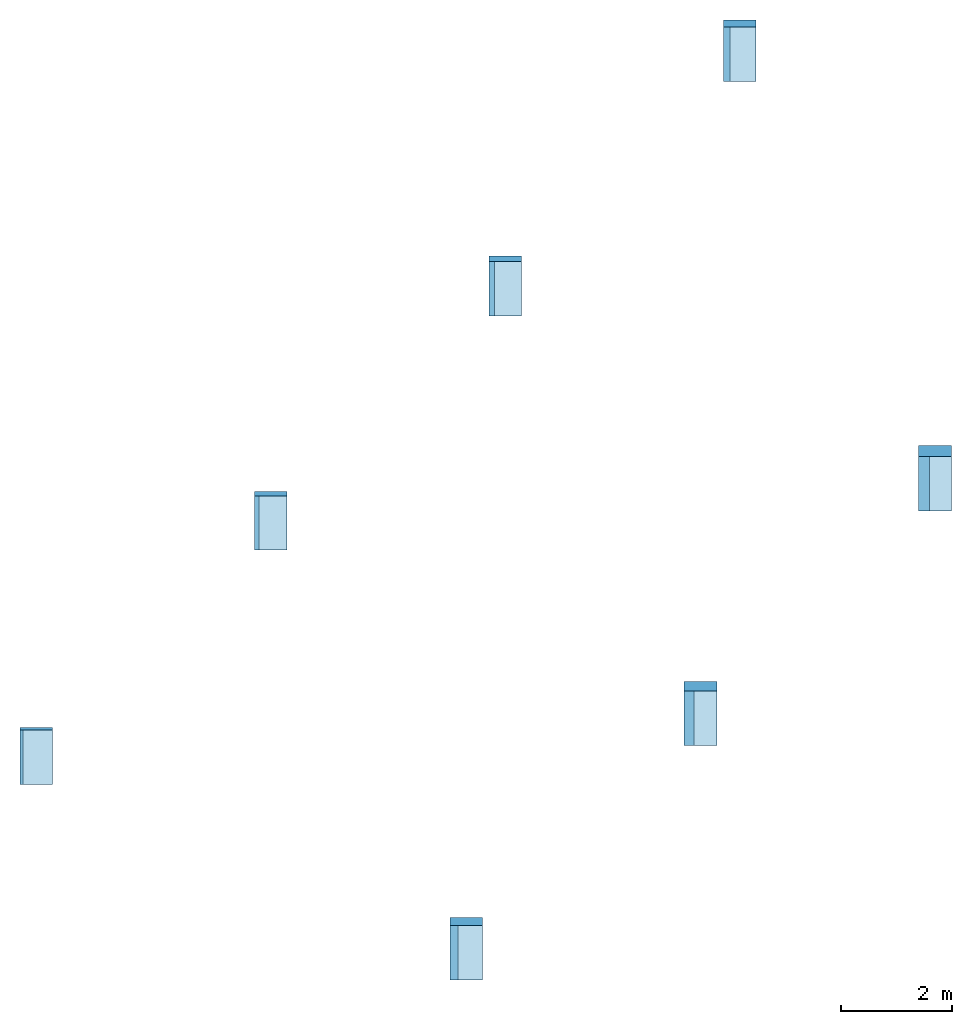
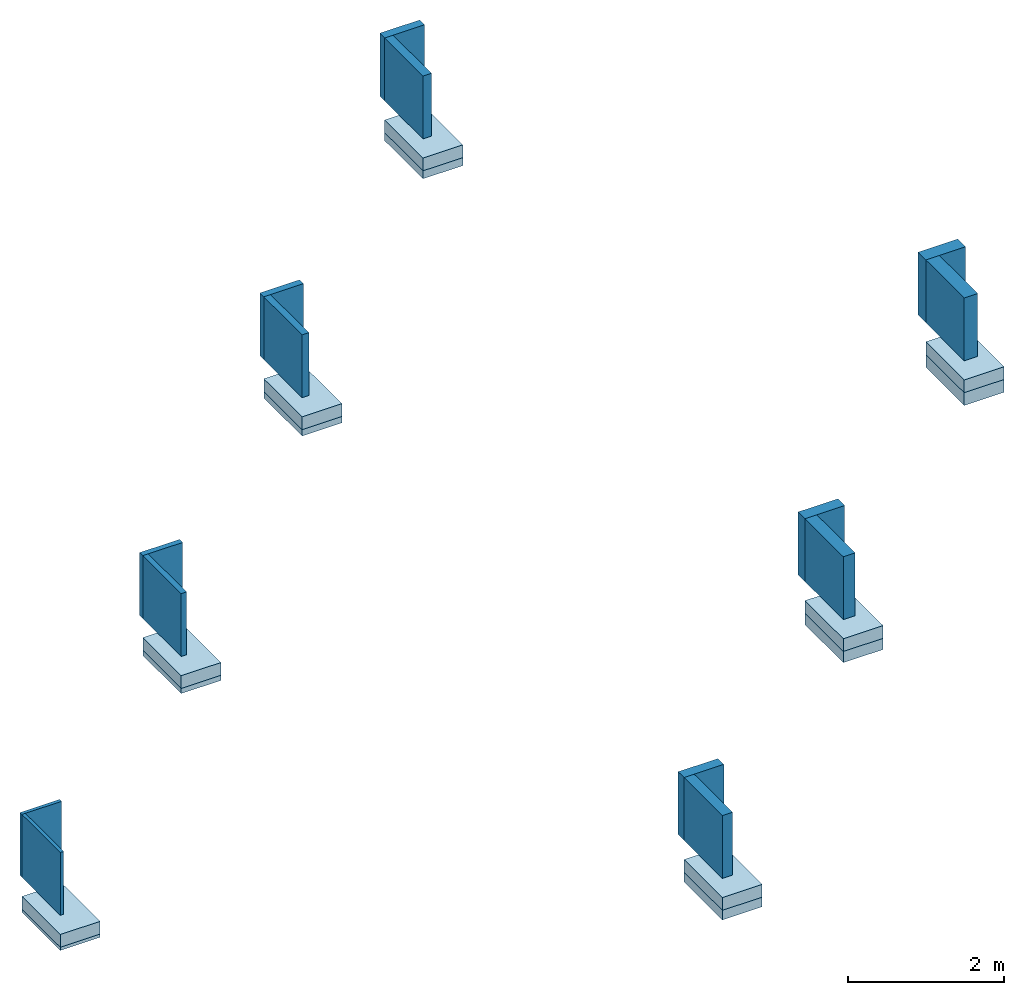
# One storey: 14 slabs, 14 walls.
"""IFC2X3 building model written with IfcOpenShell, lengths in millimetres."""

from ifc_helpers import new_model, entity, si_unit, converted_unit, derived_unit, direction, frame, frame_2d, origin, origin_2d_with_axis, place, context, subcontext, project, spatial, rectangle, extrude, material, layer, layer_set, layer_usage, type_object, element, save


model = new_model("IFC2X3")

# Units and contexts
model_context = context("Model", 3, precision=0.01, world=origin(), true_north=direction((6.12303176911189e-17, 1.0)))
context_of_model = context(None, 3, precision=0.01, world=origin(), true_north=direction((6.12303176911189e-17, 1.0)))
body_context = subcontext(model_context, "Body", "Model", "MODEL_VIEW")
ifc_project = project(units=[si_unit("LENGTHUNIT", "METRE", prefix="MILLI"), si_unit("AREAUNIT", "SQUARE_METRE"), si_unit("VOLUMEUNIT", "CUBIC_METRE"), converted_unit("PLANEANGLEUNIT", "DEGREE", entity("IfcRatioMeasure", 0.0174532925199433), si_unit("PLANEANGLEUNIT", "RADIAN"), dimensions=[0, 0, 0, 0, 0, 0, 0]), si_unit("MASSUNIT", "GRAM", prefix="KILO"), derived_unit("MASSDENSITYUNIT", [(si_unit("MASSUNIT", "GRAM", prefix="KILO"), 1), (si_unit("LENGTHUNIT", "METRE"), -3)]), derived_unit("MOMENTOFINERTIAUNIT", [(si_unit("LENGTHUNIT", "METRE"), 4)]), si_unit("TIMEUNIT", "SECOND"), si_unit("FREQUENCYUNIT", "HERTZ"), si_unit("THERMODYNAMICTEMPERATUREUNIT", "DEGREE_CELSIUS"), derived_unit("THERMALTRANSMITTANCEUNIT", [(si_unit("MASSUNIT", "GRAM", prefix="KILO"), 1), (si_unit("THERMODYNAMICTEMPERATUREUNIT", "KELVIN"), -1), (si_unit("TIMEUNIT", "SECOND"), -3)]), derived_unit("VOLUMETRICFLOWRATEUNIT", [(si_unit("LENGTHUNIT", "METRE"), 3), (si_unit("TIMEUNIT", "SECOND"), -1)]), si_unit("ELECTRICCURRENTUNIT", "AMPERE"), si_unit("ELECTRICVOLTAGEUNIT", "VOLT"), si_unit("POWERUNIT", "WATT"), si_unit("FORCEUNIT", "NEWTON", prefix="KILO"), si_unit("ILLUMINANCEUNIT", "LUX"), si_unit("LUMINOUSFLUXUNIT", "LUMEN"), si_unit("LUMINOUSINTENSITYUNIT", "CANDELA"), derived_unit("USERDEFINED", [(si_unit("MASSUNIT", "GRAM", prefix="KILO"), -1), (si_unit("LENGTHUNIT", "METRE"), -2), (si_unit("TIMEUNIT", "SECOND"), 3), (si_unit("LUMINOUSFLUXUNIT", "LUMEN"), 1)]), derived_unit("LINEARVELOCITYUNIT", [(si_unit("LENGTHUNIT", "METRE"), 1), (si_unit("TIMEUNIT", "SECOND"), -1)]), si_unit("PRESSUREUNIT", "PASCAL"), derived_unit("USERDEFINED", [(si_unit("LENGTHUNIT", "METRE"), -2), (si_unit("MASSUNIT", "GRAM", prefix="KILO"), 1), (si_unit("TIMEUNIT", "SECOND"), -2)]), derived_unit("LINEARFORCEUNIT", [(si_unit("MASSUNIT", "GRAM", prefix="KILO"), 1), (si_unit("LENGTHUNIT", "METRE"), 1), (si_unit("TIMEUNIT", "SECOND"), -2), (si_unit("LENGTHUNIT", "METRE"), -1)]), derived_unit("PLANARFORCEUNIT", [(si_unit("MASSUNIT", "GRAM", prefix="KILO"), 1), (si_unit("LENGTHUNIT", "METRE"), 1), (si_unit("TIMEUNIT", "SECOND"), -2), (si_unit("LENGTHUNIT", "METRE"), -2)])], contexts=[model_context, context_of_model])

# Site, building, storey
site_placement = place(None, origin())
site = spatial("IfcSite", under=ifc_project, at=site_placement, Name="Default", CompositionType="ELEMENT")
building_placement = place(site_placement, origin())
building = spatial("IfcBuilding", under=site, at=building_placement, CompositionType="ELEMENT")
storey_placement = place(building_placement, origin())
storey = spatial("IfcBuildingStorey", under=building, at=storey_placement, Name="00 begane grond", CompositionType="ELEMENT", Elevation=-2.77069864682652e-11)

# Slabs
ifc_material_1 = material(Name="Heraklith® I Heratekta - EPS60-SE")
ifc_layer_1 = layer(ifc_material_1, 70.0)
ifc_material_2 = material(Name="Heraklith® | Heratekta - Houtwollaag - 985x590mm")
ifc_layer_2 = layer(ifc_material_2, 10.0)
ifc_layer_set_1 = layer_set([ifc_layer_1, ifc_layer_2], Name="Floor:NLRS_23_FL_Heraklith Heratekta+ 80x985x590mm")
ifc_layer_usage_1 = layer_usage(ifc_layer_set_1, "AXIS3", "POSITIVE", 0.0)
slab_type_1 = type_object("IfcSlabType", Name="Floor:NLRS_23_FL_Heraklith Heratekta+ 80x985x590mm", PredefinedType="FLOOR", material=ifc_layer_set_1)
slab_1_placement = place(storey_placement, origin())
element("IfcSlab", 1, at=slab_1_placement, inside=storey, type_object=slab_type_1, material=ifc_layer_usage_1, Name="Floor:NLRS_23_FL_Heraklith Heratekta+ 80x985x590mm", ObjectType="Floor:NLRS_23_FL_Heraklith Heratekta+ 80x985x590mm", PredefinedType="FLOOR", context=body_context, shape_type="SweptSolid", body=[
    extrude(rectangle(XDim=985.0, YDim=590.0, at=frame_2d((5.6843418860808e-13, 0.0), x_axis=(1.0, 0.0))), frame((4537.64068711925, 4735.14068711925, -500.0), z_axis=(0.0, 0.0, -1.0), x_axis=(0.0, 1.0, 0.0)), (0.0, 0.0, 1.0), 80.0),
])
ifc_layer_3 = layer(ifc_material_1, 90.0)
ifc_layer_4 = layer(ifc_material_2, 10.0)
ifc_layer_set_2 = layer_set([ifc_layer_3, ifc_layer_4], Name="Floor:NLRS_23_FL_Heraklith Heratekta+ 100x985x590mm")
ifc_layer_usage_2 = layer_usage(ifc_layer_set_2, "AXIS3", "POSITIVE", 0.0)
slab_type_2 = type_object("IfcSlabType", Name="Floor:NLRS_23_FL_Heraklith Heratekta+ 100x985x590mm", PredefinedType="FLOOR", material=ifc_layer_set_2)
slab_2_placement = place(storey_placement, origin())
element("IfcSlab", 2, at=slab_2_placement, inside=storey, type_object=slab_type_2, material=ifc_layer_usage_2, Name="Floor:NLRS_23_FL_Heraklith Heratekta+ 100x985x590mm", ObjectType="Floor:NLRS_23_FL_Heraklith Heratekta+ 100x985x590mm", PredefinedType="FLOOR", context=body_context, shape_type="SweptSolid", body=[
    extrude(rectangle(XDim=985.0, YDim=590.0, at=frame_2d((-5.6843418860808e-13, 0.0), x_axis=(1.0, 0.0))), frame((8780.28137423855, 8977.78137423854, -500.0), z_axis=(0.0, 0.0, -1.0), x_axis=(0.0, 1.0, 0.0)), (0.0, 0.0, 1.0), 100.0),
])
ifc_layer_5 = layer(ifc_material_1, 115.0)
ifc_layer_6 = layer(ifc_material_2, 10.0)
ifc_layer_set_3 = layer_set([ifc_layer_5, ifc_layer_6], Name="Floor:NLRS_23_FL_Heraklith Heratekta+ 125x985x590mm")
ifc_layer_usage_3 = layer_usage(ifc_layer_set_3, "AXIS3", "POSITIVE", 0.0)
slab_type_3 = type_object("IfcSlabType", Name="Floor:NLRS_23_FL_Heraklith Heratekta+ 125x985x590mm", PredefinedType="FLOOR", material=ifc_layer_set_3)
slab_3_placement = place(storey_placement, origin())
element("IfcSlab", 3, at=slab_3_placement, inside=storey, type_object=slab_type_3, material=ifc_layer_usage_3, Name="Floor:NLRS_23_FL_Heraklith Heratekta+ 125x985x590mm", ObjectType="Floor:NLRS_23_FL_Heraklith Heratekta+ 125x985x590mm", PredefinedType="FLOOR", context=body_context, shape_type="SweptSolid", body=[
    extrude(rectangle(XDim=984.999999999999, YDim=590.0, at=frame_2d((-1.10844666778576e-12, 0.0), x_axis=(1.0, 0.0))), frame((13022.9220613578, 13220.4220613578, -500.0), z_axis=(0.0, 0.0, -1.0), x_axis=(0.0, 1.0, 0.0)), (0.0, 0.0, 1.0), 125.0),
])
ifc_layer_7 = layer(ifc_material_1, 140.0)
ifc_layer_8 = layer(ifc_material_2, 10.0)
ifc_layer_set_4 = layer_set([ifc_layer_7, ifc_layer_8], Name="Floor:NLRS_23_FL_Heraklith Heratekta+ 150x985x590mm")
ifc_layer_usage_4 = layer_usage(ifc_layer_set_4, "AXIS3", "POSITIVE", 0.0)
slab_type_4 = type_object("IfcSlabType", Name="Floor:NLRS_23_FL_Heraklith Heratekta+ 150x985x590mm", PredefinedType="FLOOR", material=ifc_layer_set_4)
slab_4_placement = place(storey_placement, origin())
element("IfcSlab", 4, at=slab_4_placement, inside=storey, type_object=slab_type_4, material=ifc_layer_usage_4, Name="Floor:NLRS_23_FL_Heraklith Heratekta+ 150x985x590mm", ObjectType="Floor:NLRS_23_FL_Heraklith Heratekta+ 150x985x590mm", PredefinedType="FLOOR", context=body_context, shape_type="SweptSolid", body=[
    extrude(rectangle(XDim=985.0, YDim=590.0, at=origin_2d_with_axis()), frame((8073.17459305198, -3043.03390593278, -500.0), z_axis=(0.0, 0.0, -1.0), x_axis=(0.0, 1.0, 0.0)), (0.0, 0.0, 1.0), 150.0),
])
ifc_layer_9 = layer(ifc_material_1, 165.0)
ifc_layer_10 = layer(ifc_material_2, 10.0)
ifc_layer_set_5 = layer_set([ifc_layer_9, ifc_layer_10], Name="Floor:NLRS_23_FL_Heraklith Heratekta+ 175x985x590mm")
ifc_layer_usage_5 = layer_usage(ifc_layer_set_5, "AXIS3", "POSITIVE", 0.0)
slab_type_5 = type_object("IfcSlabType", Name="Floor:NLRS_23_FL_Heraklith Heratekta+ 175x985x590mm", PredefinedType="FLOOR", material=ifc_layer_set_5)
slab_5_placement = place(storey_placement, origin())
element("IfcSlab", 5, at=slab_5_placement, inside=storey, type_object=slab_type_5, material=ifc_layer_usage_5, Name="Floor:NLRS_23_FL_Heraklith Heratekta+ 175x985x590mm", ObjectType="Floor:NLRS_23_FL_Heraklith Heratekta+ 175x985x590mm", PredefinedType="FLOOR", context=body_context, shape_type="SweptSolid", body=[
    extrude(rectangle(XDim=985.0, YDim=590.0, at=frame_2d((1.4210854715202e-13, 0.0), x_axis=(1.0, 0.0))), frame((12315.8152801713, 1199.6067811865, -500.0), z_axis=(0.0, 0.0, -1.0), x_axis=(0.0, 1.0, 0.0)), (0.0, 0.0, 1.0), 175.0),
])
ifc_layer_11 = layer(ifc_material_1, 190.0)
ifc_layer_12 = layer(ifc_material_2, 10.0)
ifc_layer_set_6 = layer_set([ifc_layer_11, ifc_layer_12], Name="Floor:NLRS_23_FL_Heraklith Heratekta+ 200x985x590mm")
ifc_layer_usage_6 = layer_usage(ifc_layer_set_6, "AXIS3", "POSITIVE", 0.0)
slab_type_6 = type_object("IfcSlabType", Name="Floor:NLRS_23_FL_Heraklith Heratekta+ 200x985x590mm", PredefinedType="FLOOR", material=ifc_layer_set_6)
slab_6_placement = place(storey_placement, origin())
element("IfcSlab", 6, at=slab_6_placement, inside=storey, type_object=slab_type_6, material=ifc_layer_usage_6, Name="Floor:NLRS_23_FL_Heraklith Heratekta+ 200x985x590mm", ObjectType="Floor:NLRS_23_FL_Heraklith Heratekta+ 200x985x590mm", PredefinedType="FLOOR", context=body_context, shape_type="SweptSolid", body=[
    extrude(rectangle(XDim=985.0, YDim=590.0, at=frame_2d((-5.6843418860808e-13, 0.0), x_axis=(1.0, 0.0))), frame((16558.4559672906, 5442.24746830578, -500.0), z_axis=(0.0, 0.0, -1.0), x_axis=(0.0, 1.0, 0.0)), (0.0, 0.0, 1.0), 200.0),
])
ifc_material_3 = material(Name="Concrete, Precast Panels")
ifc_layer_13 = layer(ifc_material_3, 200.0)
ifc_layer_set_7 = layer_set([ifc_layer_13], Name="Floor:Generic 200mm")
ifc_layer_usage_7 = layer_usage(ifc_layer_set_7, "AXIS3", "POSITIVE", 0.0)
slab_type_7 = type_object("IfcSlabType", Name="Floor:Generic 200mm", PredefinedType="FLOOR", material=ifc_layer_set_7)
slab_7_placement = place(storey_placement, origin())
element("IfcSlab", 7, at=slab_7_placement, inside=storey, type_object=slab_type_7, material=ifc_layer_usage_7, Name="Floor:Generic 200mm", ObjectType="Floor:Generic 200mm", PredefinedType="FLOOR", context=body_context, shape_type="SweptSolid", body=[
    extrude(rectangle(XDim=984.999999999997, YDim=589.999999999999, at=frame_2d((-5.6843418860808e-14, 1.13686837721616e-12), x_axis=(1.0, 0.0))), frame((295.0, 492.499999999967, -300.0), z_axis=(0.0, 0.0, -1.0), x_axis=(0.0, 1.0, 0.0)), (0.0, 0.0, 1.0), 200.0),
])
ifc_layer_usage_8 = layer_usage(ifc_layer_set_7, "AXIS3", "POSITIVE", 0.0)
slab_type_8 = type_object("IfcSlabType", Name="Floor:Generic 200mm", PredefinedType="FLOOR", material=ifc_layer_set_7)
slab_8_placement = place(storey_placement, origin())
element("IfcSlab", 8, at=slab_8_placement, inside=storey, type_object=slab_type_8, material=ifc_layer_usage_8, Name="Floor:Generic 200mm", ObjectType="Floor:Generic 200mm", PredefinedType="FLOOR", context=body_context, shape_type="SweptSolid", body=[
    extrude(rectangle(XDim=985.000000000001, YDim=589.999999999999, at=origin_2d_with_axis()), frame((4537.64068711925, 4735.14068711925, -300.0), z_axis=(0.0, 0.0, -1.0), x_axis=(0.0, 1.0, 0.0)), (0.0, 0.0, 1.0), 200.0),
])
ifc_layer_usage_9 = layer_usage(ifc_layer_set_7, "AXIS3", "POSITIVE", 0.0)
slab_type_9 = type_object("IfcSlabType", Name="Floor:Generic 200mm", PredefinedType="FLOOR", material=ifc_layer_set_7)
slab_9_placement = place(storey_placement, origin())
element("IfcSlab", 9, at=slab_9_placement, inside=storey, type_object=slab_type_9, material=ifc_layer_usage_9, Name="Floor:Generic 200mm", ObjectType="Floor:Generic 200mm", PredefinedType="FLOOR", context=body_context, shape_type="SweptSolid", body=[
    extrude(rectangle(XDim=984.999999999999, YDim=589.999999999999, at=frame_2d((0.0, 5.40012479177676e-13), x_axis=(1.0, 0.0))), frame((8780.28137423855, 8977.78137423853, -300.0), z_axis=(0.0, 0.0, -1.0), x_axis=(0.0, 1.0, 0.0)), (0.0, 0.0, 1.0), 200.0),
])
ifc_layer_usage_10 = layer_usage(ifc_layer_set_7, "AXIS3", "POSITIVE", 0.0)
slab_type_10 = type_object("IfcSlabType", Name="Floor:Generic 200mm", PredefinedType="FLOOR", material=ifc_layer_set_7)
slab_10_placement = place(storey_placement, origin())
element("IfcSlab", 10, at=slab_10_placement, inside=storey, type_object=slab_type_10, material=ifc_layer_usage_10, Name="Floor:Generic 200mm", ObjectType="Floor:Generic 200mm", PredefinedType="FLOOR", context=body_context, shape_type="SweptSolid", body=[
    extrude(rectangle(XDim=984.999999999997, YDim=590.0, at=frame_2d((2.18847162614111e-12, 0.0), x_axis=(1.0, 0.0))), frame((13022.9220613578, 13220.4220613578, -300.0), z_axis=(0.0, 0.0, -1.0), x_axis=(0.0, 1.0, 0.0)), (0.0, 0.0, 1.0), 200.0),
])
ifc_layer_usage_11 = layer_usage(ifc_layer_set_7, "AXIS3", "POSITIVE", 0.0)
slab_type_11 = type_object("IfcSlabType", Name="Floor:Generic 200mm", PredefinedType="FLOOR", material=ifc_layer_set_7)
slab_11_placement = place(storey_placement, origin())
element("IfcSlab", 11, at=slab_11_placement, inside=storey, type_object=slab_type_11, material=ifc_layer_usage_11, Name="Floor:Generic 200mm", ObjectType="Floor:Generic 200mm", PredefinedType="FLOOR", context=body_context, shape_type="SweptSolid", body=[
    extrude(rectangle(XDim=984.999999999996, YDim=590.0, at=frame_2d((-5.40012479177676e-13, 0.0), x_axis=(1.0, 0.0))), frame((16558.4559672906, 5442.24746830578, -300.0), z_axis=(0.0, 0.0, -1.0), x_axis=(0.0, 1.0, 0.0)), (0.0, 0.0, 1.0), 200.0),
])
ifc_layer_usage_12 = layer_usage(ifc_layer_set_7, "AXIS3", "POSITIVE", 0.0)
slab_type_12 = type_object("IfcSlabType", Name="Floor:Generic 200mm", PredefinedType="FLOOR", material=ifc_layer_set_7)
slab_12_placement = place(storey_placement, origin())
element("IfcSlab", 12, at=slab_12_placement, inside=storey, type_object=slab_type_12, material=ifc_layer_usage_12, Name="Floor:Generic 200mm", ObjectType="Floor:Generic 200mm", PredefinedType="FLOOR", context=body_context, shape_type="SweptSolid", body=[
    extrude(rectangle(XDim=985.000000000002, YDim=590.0, at=frame_2d((-2.8421709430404e-13, 0.0), x_axis=(1.0, 0.0))), frame((12315.8152801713, 1199.6067811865, -300.0), z_axis=(0.0, 0.0, -1.0), x_axis=(0.0, 1.0, 0.0)), (0.0, 0.0, 1.0), 200.0),
])
ifc_layer_usage_13 = layer_usage(ifc_layer_set_7, "AXIS3", "POSITIVE", 0.0)
slab_type_13 = type_object("IfcSlabType", Name="Floor:Generic 200mm", PredefinedType="FLOOR", material=ifc_layer_set_7)
slab_13_placement = place(storey_placement, origin())
element("IfcSlab", 13, at=slab_13_placement, inside=storey, type_object=slab_type_13, material=ifc_layer_usage_13, Name="Floor:Generic 200mm", ObjectType="Floor:Generic 200mm", PredefinedType="FLOOR", context=body_context, shape_type="SweptSolid", body=[
    extrude(rectangle(XDim=985.000000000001, YDim=590.000000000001, at=frame_2d((0.0, 5.40012479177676e-13), x_axis=(1.0, 0.0))), frame((8073.17459305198, -3043.03390593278, -300.0), z_axis=(0.0, 0.0, -1.0), x_axis=(0.0, 1.0, 0.0)), (0.0, 0.0, 1.0), 200.0),
])
ifc_layer_14 = layer(ifc_material_1, 40.0)
ifc_layer_15 = layer(ifc_material_2, 10.0)
ifc_layer_set_8 = layer_set([ifc_layer_14, ifc_layer_15], Name="Floor:NLRS_23_FL_Heraklith Heratekta+ 50x985x590mm")
ifc_layer_usage_14 = layer_usage(ifc_layer_set_8, "AXIS3", "POSITIVE", 0.0)
slab_type_14 = type_object("IfcSlabType", Name="Floor:NLRS_23_FL_Heraklith Heratekta+ 50x985x590mm", PredefinedType="FLOOR", material=ifc_layer_set_8)
slab_14_placement = place(storey_placement, origin())
element("IfcSlab", 14, at=slab_14_placement, inside=storey, type_object=slab_type_14, material=ifc_layer_usage_14, Name="Floor:NLRS_23_FL_Heraklith Heratekta+ 50x985x590mm", ObjectType="Floor:NLRS_23_FL_Heraklith Heratekta+ 50x985x590mm", PredefinedType="FLOOR", context=body_context, shape_type="SweptSolid", body=[
    extrude(rectangle(XDim=985.0, YDim=590.0, at=origin_2d_with_axis()), frame((295.0, 492.519553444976, -500.0), z_axis=(0.0, 0.0, -1.0), x_axis=(0.0, 1.0, 0.0)), (0.0, 0.0, 1.0), 50.0),
])

# Walls
ifc_layer_16 = layer(ifc_material_1, 40.0)
ifc_layer_17 = layer(ifc_material_2, 10.0)
ifc_layer_set_9 = layer_set([ifc_layer_16, ifc_layer_17], Name="Basic Wall:NLRS_42_WA_Heraklith Heratekta+ 50x985x590mm")
ifc_layer_usage_15 = layer_usage(ifc_layer_set_9, "AXIS2", "POSITIVE", -25.0)
wall_type_1 = type_object("IfcWallType", Name="Basic Wall:NLRS_42_WA_Heraklith Heratekta+ 50x985x590mm", PredefinedType="STANDARD", material=ifc_layer_set_9)
wall_1_placement = place(storey_placement, frame((25.0, 0.0, 0.0), z_axis=(0.0, 0.0, 1.0), x_axis=(0.0, 1.0, 0.0)))
element("IfcWallStandardCase", 15, at=wall_1_placement, inside=storey, type_object=wall_type_1, material=ifc_layer_usage_15, Name="Basic Wall:NLRS_42_WA_Heraklith Heratekta+ 50x985x590mm", ObjectType="Basic Wall:NLRS_42_WA_Heraklith Heratekta+ 50x985x590mm", context=body_context, shape_type="SweptSolid", body=[
    extrude(rectangle(XDim=985.0, YDim=50.0, at=frame_2d((492.5, 1.77635683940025e-15), x_axis=(-1.0, 0.0))), origin(), (0.0, 0.0, 1.0), 985.000000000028),
])
ifc_layer_18 = layer(ifc_material_1, 40.0)
ifc_layer_19 = layer(ifc_material_2, 10.0)
ifc_layer_set_10 = layer_set([ifc_layer_18, ifc_layer_19], Name="Basic Wall:NLRS_41_WA_Heraklith Heratekta+ 50x985x590mm")
ifc_layer_usage_16 = layer_usage(ifc_layer_set_10, "AXIS2", "NEGATIVE", 25.0)
wall_type_2 = type_object("IfcWallType", Name="Basic Wall:NLRS_41_WA_Heraklith Heratekta+ 50x985x590mm", PredefinedType="STANDARD", material=ifc_layer_set_10)
wall_2_placement = place(storey_placement, frame((590.0, 1010.0, 0.0), z_axis=(0.0, 0.0, 1.0), x_axis=(-1.0, 0.0, 0.0)))
element("IfcWallStandardCase", 16, at=wall_2_placement, inside=storey, type_object=wall_type_2, material=ifc_layer_usage_16, Name="Basic Wall:NLRS_41_WA_Heraklith Heratekta+ 50x985x590mm", ObjectType="Basic Wall:NLRS_41_WA_Heraklith Heratekta+ 50x985x590mm", context=body_context, shape_type="SweptSolid", body=[
    extrude(rectangle(XDim=590.0, YDim=50.0, at=frame_2d((295.0, -1.59872115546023e-14), x_axis=(-1.0, 0.0))), origin(), (0.0, 0.0, 1.0), 985.000000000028),
])
ifc_layer_20 = layer(ifc_material_1, 70.0)
ifc_layer_21 = layer(ifc_material_2, 10.0)
ifc_layer_set_11 = layer_set([ifc_layer_20, ifc_layer_21], Name="Basic Wall:NLRS_42_WA_Heraklith Heratekta+ 80x985x590mm")
ifc_layer_usage_17 = layer_usage(ifc_layer_set_11, "AXIS2", "POSITIVE", -40.0)
wall_type_3 = type_object("IfcWallType", Name="Basic Wall:NLRS_42_WA_Heraklith Heratekta+ 80x985x590mm", PredefinedType="STANDARD", material=ifc_layer_set_11)
wall_3_placement = place(storey_placement, frame((4282.64068711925, 4242.64068711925, 0.0), z_axis=(0.0, 0.0, 1.0), x_axis=(0.0, 1.0, 0.0)))
element("IfcWallStandardCase", 17, at=wall_3_placement, inside=storey, type_object=wall_type_3, material=ifc_layer_usage_17, Name="Basic Wall:NLRS_42_WA_Heraklith Heratekta+ 80x985x590mm", ObjectType="Basic Wall:NLRS_42_WA_Heraklith Heratekta+ 80x985x590mm", context=body_context, shape_type="SweptSolid", body=[
    extrude(rectangle(XDim=984.999999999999, YDim=80.0000000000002, at=frame_2d((492.5, -2.1316282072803e-14), x_axis=(-1.0, 0.0))), origin(), (0.0, 0.0, 1.0), 985.000000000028),
])
ifc_layer_22 = layer(ifc_material_1, 70.0)
ifc_layer_23 = layer(ifc_material_2, 10.0)
ifc_layer_set_12 = layer_set([ifc_layer_22, ifc_layer_23], Name="Basic Wall:NLRS_41_WA_Heraklith Heratekta+ 80x985x590mm")
ifc_layer_usage_18 = layer_usage(ifc_layer_set_12, "AXIS2", "NEGATIVE", 40.0)
wall_type_4 = type_object("IfcWallType", Name="Basic Wall:NLRS_41_WA_Heraklith Heratekta+ 80x985x590mm", PredefinedType="STANDARD", material=ifc_layer_set_12)
wall_4_placement = place(storey_placement, frame((4832.64068711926, 5267.64068711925, 0.0), z_axis=(0.0, 0.0, 1.0), x_axis=(-1.0, 0.0, 0.0)))
element("IfcWallStandardCase", 18, at=wall_4_placement, inside=storey, type_object=wall_type_4, material=ifc_layer_usage_18, Name="Basic Wall:NLRS_41_WA_Heraklith Heratekta+ 80x985x590mm", ObjectType="Basic Wall:NLRS_41_WA_Heraklith Heratekta+ 80x985x590mm", context=body_context, shape_type="SweptSolid", body=[
    extrude(rectangle(XDim=590.000000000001, YDim=79.9999999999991, at=frame_2d((295.0, 4.58300064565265e-13), x_axis=(-1.0, 0.0))), origin(), (0.0, 0.0, 1.0), 985.000000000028),
])
ifc_layer_24 = layer(ifc_material_1, 90.0)
ifc_layer_25 = layer(ifc_material_2, 10.0)
ifc_layer_set_13 = layer_set([ifc_layer_24, ifc_layer_25], Name="Basic Wall:NLRS_42_WA_Heraklith Heratekta+ 100x985x590mm")
ifc_layer_usage_19 = layer_usage(ifc_layer_set_13, "AXIS2", "POSITIVE", -50.0)
wall_type_5 = type_object("IfcWallType", Name="Basic Wall:NLRS_42_WA_Heraklith Heratekta+ 100x985x590mm", PredefinedType="STANDARD", material=ifc_layer_set_13)
wall_5_placement = place(storey_placement, frame((8535.28137423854, 8485.28137423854, 0.0), z_axis=(0.0, 0.0, 1.0), x_axis=(0.0, 1.0, 0.0)))
element("IfcWallStandardCase", 19, at=wall_5_placement, inside=storey, type_object=wall_type_5, material=ifc_layer_usage_19, Name="Basic Wall:NLRS_42_WA_Heraklith Heratekta+ 100x985x590mm", ObjectType="Basic Wall:NLRS_42_WA_Heraklith Heratekta+ 100x985x590mm", context=body_context, shape_type="SweptSolid", body=[
    extrude(rectangle(XDim=984.999999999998, YDim=99.9999999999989, at=frame_2d((492.499999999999, 2.52242671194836e-13), x_axis=(-1.0, 0.0))), origin(), (0.0, 0.0, 1.0), 985.000000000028),
])
ifc_layer_26 = layer(ifc_material_1, 90.0)
ifc_layer_27 = layer(ifc_material_2, 10.0)
ifc_layer_set_14 = layer_set([ifc_layer_26, ifc_layer_27], Name="Basic Wall:NLRS_41_WA_Heraklith Heratekta+ 100x985x590mm")
ifc_layer_usage_20 = layer_usage(ifc_layer_set_14, "AXIS2", "NEGATIVE", 50.0)
wall_type_6 = type_object("IfcWallType", Name="Basic Wall:NLRS_41_WA_Heraklith Heratekta+ 100x985x590mm", PredefinedType="STANDARD", material=ifc_layer_set_14)
wall_6_placement = place(storey_placement, frame((9075.28137423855, 9520.28137423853, 0.0), z_axis=(0.0, 0.0, 1.0), x_axis=(-1.0, 0.0, 0.0)))
element("IfcWallStandardCase", 20, at=wall_6_placement, inside=storey, type_object=wall_type_6, material=ifc_layer_usage_20, Name="Basic Wall:NLRS_41_WA_Heraklith Heratekta+ 100x985x590mm", ObjectType="Basic Wall:NLRS_41_WA_Heraklith Heratekta+ 100x985x590mm", context=body_context, shape_type="SweptSolid", body=[
    extrude(rectangle(XDim=590.0, YDim=99.9999999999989, at=frame_2d((295.0, 4.58300064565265e-13), x_axis=(-1.0, 0.0))), origin(), (0.0, 0.0, 1.0), 985.000000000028),
])
ifc_layer_28 = layer(ifc_material_1, 115.0)
ifc_layer_29 = layer(ifc_material_2, 10.0)
ifc_layer_set_15 = layer_set([ifc_layer_28, ifc_layer_29], Name="Basic Wall:NLRS_42_WA_Heraklith Heratekta+ 125x985x590mm")
ifc_layer_usage_21 = layer_usage(ifc_layer_set_15, "AXIS2", "POSITIVE", -62.5)
wall_type_7 = type_object("IfcWallType", Name="Basic Wall:NLRS_42_WA_Heraklith Heratekta+ 125x985x590mm", PredefinedType="STANDARD", material=ifc_layer_set_15)
wall_7_placement = place(storey_placement, frame((12790.4220613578, 12727.9220613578, 0.0), z_axis=(0.0, 0.0, 1.0), x_axis=(0.0, 1.0, 0.0)))
element("IfcWallStandardCase", 21, at=wall_7_placement, inside=storey, type_object=wall_type_7, material=ifc_layer_usage_21, Name="Basic Wall:NLRS_42_WA_Heraklith Heratekta+ 125x985x590mm", ObjectType="Basic Wall:NLRS_42_WA_Heraklith Heratekta+ 125x985x590mm", context=body_context, shape_type="SweptSolid", body=[
    extrude(rectangle(XDim=984.999999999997, YDim=125.000000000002, at=frame_2d((492.499999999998, -2.91322521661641e-13), x_axis=(-1.0, 0.0))), origin(), (0.0, 0.0, 1.0), 985.000000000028),
])
ifc_layer_30 = layer(ifc_material_1, 115.0)
ifc_layer_31 = layer(ifc_material_2, 10.0)
ifc_layer_set_16 = layer_set([ifc_layer_30, ifc_layer_31], Name="Basic Wall:NLRS_41_WA_Heraklith Heratekta+ 125x985x590mm")
ifc_layer_usage_22 = layer_usage(ifc_layer_set_16, "AXIS2", "NEGATIVE", 62.5)
wall_type_8 = type_object("IfcWallType", Name="Basic Wall:NLRS_41_WA_Heraklith Heratekta+ 125x985x590mm", PredefinedType="STANDARD", material=ifc_layer_set_16)
wall_8_placement = place(storey_placement, frame((13317.9220613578, 13775.4220613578, 0.0), z_axis=(0.0, 0.0, 1.0), x_axis=(-1.0, 0.0, 0.0)))
element("IfcWallStandardCase", 22, at=wall_8_placement, inside=storey, type_object=wall_type_8, material=ifc_layer_usage_22, Name="Basic Wall:NLRS_41_WA_Heraklith Heratekta+ 125x985x590mm", ObjectType="Basic Wall:NLRS_41_WA_Heraklith Heratekta+ 125x985x590mm", context=body_context, shape_type="SweptSolid", body=[
    extrude(rectangle(XDim=590.000000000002, YDim=125.000000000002, at=frame_2d((295.000000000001, -8.5265128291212e-14), x_axis=(-1.0, 0.0))), origin(), (0.0, 0.0, 1.0), 985.000000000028),
])
ifc_layer_32 = layer(ifc_material_1, 140.0)
ifc_layer_33 = layer(ifc_material_2, 10.0)
ifc_layer_set_17 = layer_set([ifc_layer_32, ifc_layer_33], Name="Basic Wall:NLRS_42_WA_Heraklith Heratekta+ 150x985x590mm")
ifc_layer_usage_23 = layer_usage(ifc_layer_set_17, "AXIS2", "POSITIVE", -75.0)
wall_type_9 = type_object("IfcWallType", Name="Basic Wall:NLRS_42_WA_Heraklith Heratekta+ 150x985x590mm", PredefinedType="STANDARD", material=ifc_layer_set_17)
wall_9_placement = place(storey_placement, frame((7853.17459305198, -3535.53390593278, 0.0), z_axis=(0.0, 0.0, 1.0), x_axis=(0.0, 1.0, 0.0)))
element("IfcWallStandardCase", 23, at=wall_9_placement, inside=storey, type_object=wall_type_9, material=ifc_layer_usage_23, Name="Basic Wall:NLRS_42_WA_Heraklith Heratekta+ 150x985x590mm", ObjectType="Basic Wall:NLRS_42_WA_Heraklith Heratekta+ 150x985x590mm", context=body_context, shape_type="SweptSolid", body=[
    extrude(rectangle(XDim=985.000000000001, YDim=150.000000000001, at=frame_2d((492.5, 2.55795384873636e-13), x_axis=(-1.0, 0.0))), origin(), (0.0, 0.0, 1.0), 985.000000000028),
])
ifc_layer_34 = layer(ifc_material_1, 140.0)
ifc_layer_35 = layer(ifc_material_2, 10.0)
ifc_layer_set_18 = layer_set([ifc_layer_34, ifc_layer_35], Name="Basic Wall:NLRS_41_WA_Heraklith Heratekta+ 150x985x590mm")
ifc_layer_usage_24 = layer_usage(ifc_layer_set_18, "AXIS2", "NEGATIVE", 75.0)
wall_type_10 = type_object("IfcWallType", Name="Basic Wall:NLRS_41_WA_Heraklith Heratekta+ 150x985x590mm", PredefinedType="STANDARD", material=ifc_layer_set_18)
wall_10_placement = place(storey_placement, frame((8368.17459305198, -2475.53390593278, 0.0), z_axis=(0.0, 0.0, 1.0), x_axis=(-1.0, 0.0, 0.0)))
element("IfcWallStandardCase", 24, at=wall_10_placement, inside=storey, type_object=wall_type_10, material=ifc_layer_usage_24, Name="Basic Wall:NLRS_41_WA_Heraklith Heratekta+ 150x985x590mm", ObjectType="Basic Wall:NLRS_41_WA_Heraklith Heratekta+ 150x985x590mm", context=body_context, shape_type="SweptSolid", body=[
    extrude(rectangle(XDim=590.000000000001, YDim=150.0, at=frame_2d((295.000000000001, -2.20268248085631e-13), x_axis=(-1.0, 0.0))), origin(), (0.0, 0.0, 1.0), 985.000000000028),
])
ifc_layer_36 = layer(ifc_material_1, 165.0)
ifc_layer_37 = layer(ifc_material_2, 10.0)
ifc_layer_set_19 = layer_set([ifc_layer_36, ifc_layer_37], Name="Basic Wall:NLRS_42_WA_Heraklith Heratekta+ 175x985x590mm")
ifc_layer_usage_25 = layer_usage(ifc_layer_set_19, "AXIS2", "POSITIVE", -87.5)
wall_type_11 = type_object("IfcWallType", Name="Basic Wall:NLRS_42_WA_Heraklith Heratekta+ 175x985x590mm", PredefinedType="STANDARD", material=ifc_layer_set_19)
wall_11_placement = place(storey_placement, frame((12108.3152801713, 707.106781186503, 0.0), z_axis=(0.0, 0.0, 1.0), x_axis=(0.0, 1.0, 0.0)))
element("IfcWallStandardCase", 25, at=wall_11_placement, inside=storey, type_object=wall_type_11, material=ifc_layer_usage_25, Name="Basic Wall:NLRS_42_WA_Heraklith Heratekta+ 175x985x590mm", ObjectType="Basic Wall:NLRS_42_WA_Heraklith Heratekta+ 175x985x590mm", context=body_context, shape_type="SweptSolid", body=[
    extrude(rectangle(XDim=985.0, YDim=174.999999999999, at=frame_2d((492.5, -2.91322521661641e-13), x_axis=(-1.0, 0.0))), origin(), (0.0, 0.0, 1.0), 985.000000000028),
])
ifc_layer_38 = layer(ifc_material_1, 165.0)
ifc_layer_39 = layer(ifc_material_2, 10.0)
ifc_layer_set_20 = layer_set([ifc_layer_38, ifc_layer_39], Name="Basic Wall:NLRS_41_WA_Heraklith Heratekta+ 175x985x590mm")
ifc_layer_usage_26 = layer_usage(ifc_layer_set_20, "AXIS2", "NEGATIVE", 87.5)
wall_type_12 = type_object("IfcWallType", Name="Basic Wall:NLRS_41_WA_Heraklith Heratekta+ 175x985x590mm", PredefinedType="STANDARD", material=ifc_layer_set_20)
wall_12_placement = place(storey_placement, frame((12610.8152801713, 1779.6067811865, 0.0), z_axis=(0.0, 0.0, 1.0), x_axis=(-1.0, 0.0, 0.0)))
element("IfcWallStandardCase", 26, at=wall_12_placement, inside=storey, type_object=wall_type_12, material=ifc_layer_usage_26, Name="Basic Wall:NLRS_41_WA_Heraklith Heratekta+ 175x985x590mm", ObjectType="Basic Wall:NLRS_41_WA_Heraklith Heratekta+ 175x985x590mm", context=body_context, shape_type="SweptSolid", body=[
    extrude(rectangle(XDim=589.999999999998, YDim=175.0, at=frame_2d((294.999999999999, -8.5265128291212e-14), x_axis=(-1.0, 0.0))), origin(), (0.0, 0.0, 1.0), 985.000000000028),
])
ifc_layer_40 = layer(ifc_material_1, 190.0)
ifc_layer_41 = layer(ifc_material_2, 10.0)
ifc_layer_set_21 = layer_set([ifc_layer_40, ifc_layer_41], Name="Basic Wall:NLRS_42_WA_Heraklith Heratekta+ 200x985x590mm")
ifc_layer_usage_27 = layer_usage(ifc_layer_set_21, "AXIS2", "POSITIVE", -100.0)
wall_type_13 = type_object("IfcWallType", Name="Basic Wall:NLRS_42_WA_Heraklith Heratekta+ 200x985x590mm", PredefinedType="STANDARD", material=ifc_layer_set_21)
wall_13_placement = place(storey_placement, frame((16363.4559672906, 4949.74746830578, 0.0), z_axis=(0.0, 0.0, 1.0), x_axis=(0.0, 1.0, 0.0)))
element("IfcWallStandardCase", 27, at=wall_13_placement, inside=storey, type_object=wall_type_13, material=ifc_layer_usage_27, Name="Basic Wall:NLRS_42_WA_Heraklith Heratekta+ 200x985x590mm", ObjectType="Basic Wall:NLRS_42_WA_Heraklith Heratekta+ 200x985x590mm", context=body_context, shape_type="SweptSolid", body=[
    extrude(rectangle(XDim=985.000000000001, YDim=199.999999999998, at=frame_2d((492.500000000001, -2.8421709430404e-13), x_axis=(-1.0, 0.0))), origin(), (0.0, 0.0, 1.0), 985.000000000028),
])
ifc_layer_42 = layer(ifc_material_1, 190.0)
ifc_layer_43 = layer(ifc_material_2, 10.0)
ifc_layer_set_22 = layer_set([ifc_layer_42, ifc_layer_43], Name="Basic Wall:NLRS_41_WA_Heraklith Heratekta+ 200x985x590mm")
ifc_layer_usage_28 = layer_usage(ifc_layer_set_22, "AXIS2", "NEGATIVE", 100.0)
wall_type_14 = type_object("IfcWallType", Name="Basic Wall:NLRS_41_WA_Heraklith Heratekta+ 200x985x590mm", PredefinedType="STANDARD", material=ifc_layer_set_22)
wall_14_placement = place(storey_placement, frame((16853.4559672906, 6034.74746830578, 0.0), z_axis=(0.0, 0.0, 1.0), x_axis=(-1.0, 0.0, 0.0)))
element("IfcWallStandardCase", 28, at=wall_14_placement, inside=storey, type_object=wall_type_14, material=ifc_layer_usage_28, Name="Basic Wall:NLRS_41_WA_Heraklith Heratekta+ 200x985x590mm", ObjectType="Basic Wall:NLRS_41_WA_Heraklith Heratekta+ 200x985x590mm", context=body_context, shape_type="SweptSolid", body=[
    extrude(rectangle(XDim=590.0, YDim=200.0, at=frame_2d((295.0, 4.61852778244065e-13), x_axis=(-1.0, 0.0))), origin(), (0.0, 0.0, 1.0), 985.000000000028),
])

save(model, "model.ifc")
